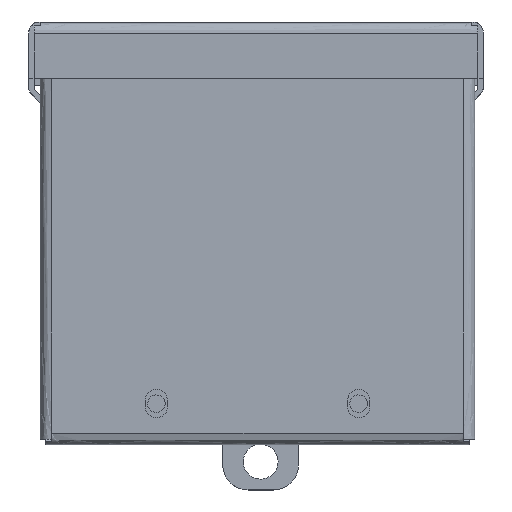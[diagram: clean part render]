
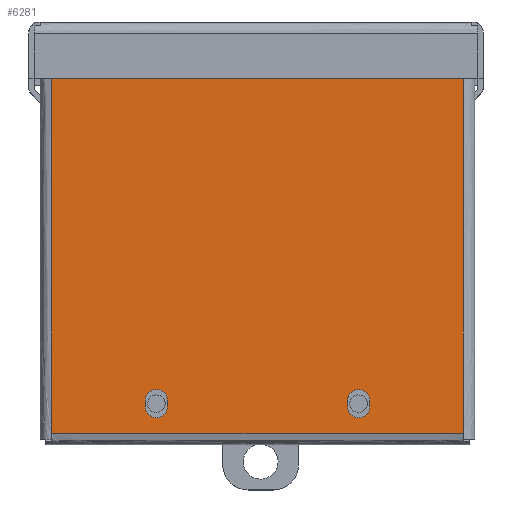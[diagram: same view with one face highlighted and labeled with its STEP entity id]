
A CAD part, top view. The second image highlights one B-rep face of the part: STEP entity #6281.
In plain terms, the highlighted free-form (B-spline) face has degree [1, 1] with [2, 2] control points.
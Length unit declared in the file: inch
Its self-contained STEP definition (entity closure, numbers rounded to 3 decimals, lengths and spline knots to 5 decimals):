
#5496=CARTESIAN_POINT('V71',(0.9855,-0.055,
   3.622));
#5497=VERTEX_POINT('V71',#5496);
#5505=CARTESIAN_POINT('V74',(1.2045,-0.055,
   3.622));
#5506=VERTEX_POINT('V74',#5505);
#5507=CARTESIAN_POINT('E88',(1.2045,-0.055,
   3.622));
#5508=CARTESIAN_POINT('E88',(1.2045,-0.055,
   3.5125));
#5509=CARTESIAN_POINT('E88',(1.095,-0.055,
   3.5125));
#5510=CARTESIAN_POINT('E88',(0.9855,-0.055,
   3.5125));
#5511=CARTESIAN_POINT('E88',(0.9855,-0.055,
   3.622));
#5519=(BOUNDED_CURVE()B_SPLINE_CURVE(2,(#5507,#5508,#5509,#5510,
   #5511),.CIRCULAR_ARC.,.F.,.U.)B_SPLINE_CURVE_WITH_KNOTS((3,2,3),
   (0.0,0.5,1.0),.UNSPECIFIED.)CURVE()
   GEOMETRIC_REPRESENTATION_ITEM()RATIONAL_B_SPLINE_CURVE((1.0,
   0.707,1.0,0.707,1.0))REPRESENTATION_ITEM(
   'E88'));
#5520=EDGE_CURVE('E88',#5506,#5497,#5519,.T.);
#5553=CARTESIAN_POINT('V73',(1.2045,-0.055,
   3.684));
#5554=VERTEX_POINT('V73',#5553);
#5555=CARTESIAN_POINT('E87',(1.2045,-0.055,
   3.684));
#5556=CARTESIAN_POINT('E87',(1.2045,-0.055,
   3.622));
#5557=QUASI_UNIFORM_CURVE('E87',1,(#5555,#5556),.POLYLINE_FORM.,.F.,
   .U.);
#5558=EDGE_CURVE('E87',#5554,#5506,#5557,.T.);
#5594=CARTESIAN_POINT('V72',(0.9855,-0.055,
   3.684));
#5595=VERTEX_POINT('V72',#5594);
#5596=CARTESIAN_POINT('E86',(0.9855,-0.055,
   3.684));
#5597=CARTESIAN_POINT('E86',(0.9855,-0.055,
   3.7935));
#5598=CARTESIAN_POINT('E86',(1.095,-0.055,
   3.7935));
#5599=CARTESIAN_POINT('E86',(1.2045,-0.055,
   3.7935));
#5600=CARTESIAN_POINT('E86',(1.2045,-0.055,
   3.684));
#5608=(BOUNDED_CURVE()B_SPLINE_CURVE(2,(#5596,#5597,#5598,#5599,
   #5600),.CIRCULAR_ARC.,.F.,.U.)B_SPLINE_CURVE_WITH_KNOTS((3,2,3),
   (0.0,0.5,1.0),.UNSPECIFIED.)CURVE()
   GEOMETRIC_REPRESENTATION_ITEM()RATIONAL_B_SPLINE_CURVE((1.0,
   0.707,1.0,0.707,1.0))REPRESENTATION_ITEM(
   'E86'));
#5609=EDGE_CURVE('E86',#5595,#5554,#5608,.T.);
#5642=CARTESIAN_POINT('E85',(0.9855,-0.055,
   3.622));
#5643=CARTESIAN_POINT('E85',(0.9855,-0.055,
   3.684));
#5644=QUASI_UNIFORM_CURVE('E85',1,(#5642,#5643),.POLYLINE_FORM.,.F.,
   .U.);
#5645=EDGE_CURVE('E85',#5497,#5595,#5644,.T.);
#5674=CARTESIAN_POINT('V67',(3.2045,-0.055,
   3.684));
#5675=VERTEX_POINT('V67',#5674);
#5683=CARTESIAN_POINT('V70',(2.9855,-0.055,
   3.684));
#5684=VERTEX_POINT('V70',#5683);
#5685=CARTESIAN_POINT('E84',(2.9855,-0.055,
   3.684));
#5686=CARTESIAN_POINT('E84',(2.9855,-0.055,
   3.7935));
#5687=CARTESIAN_POINT('E84',(3.095,-0.055,
   3.7935));
#5688=CARTESIAN_POINT('E84',(3.2045,-0.055,
   3.7935));
#5689=CARTESIAN_POINT('E84',(3.2045,-0.055,
   3.684));
#5697=(BOUNDED_CURVE()B_SPLINE_CURVE(2,(#5685,#5686,#5687,#5688,
   #5689),.CIRCULAR_ARC.,.F.,.U.)B_SPLINE_CURVE_WITH_KNOTS((3,2,3),
   (0.0,0.5,1.0),.UNSPECIFIED.)CURVE()
   GEOMETRIC_REPRESENTATION_ITEM()RATIONAL_B_SPLINE_CURVE((1.0,
   0.707,1.0,0.707,1.0))REPRESENTATION_ITEM(
   'E84'));
#5698=EDGE_CURVE('E84',#5684,#5675,#5697,.T.);
#5731=CARTESIAN_POINT('V69',(2.9855,-0.055,
   3.622));
#5732=VERTEX_POINT('V69',#5731);
#5733=CARTESIAN_POINT('E83',(2.9855,-0.055,
   3.622));
#5734=CARTESIAN_POINT('E83',(2.9855,-0.055,
   3.684));
#5735=QUASI_UNIFORM_CURVE('E83',1,(#5733,#5734),.POLYLINE_FORM.,.F.,
   .U.);
#5736=EDGE_CURVE('E83',#5732,#5684,#5735,.T.);
#5772=CARTESIAN_POINT('V68',(3.2045,-0.055,
   3.622));
#5773=VERTEX_POINT('V68',#5772);
#5774=CARTESIAN_POINT('E82',(3.2045,-0.055,
   3.622));
#5775=CARTESIAN_POINT('E82',(3.2045,-0.055,
   3.5125));
#5776=CARTESIAN_POINT('E82',(3.095,-0.055,
   3.5125));
#5777=CARTESIAN_POINT('E82',(2.9855,-0.055,
   3.5125));
#5778=CARTESIAN_POINT('E82',(2.9855,-0.055,
   3.622));
#5786=(BOUNDED_CURVE()B_SPLINE_CURVE(2,(#5774,#5775,#5776,#5777,
   #5778),.CIRCULAR_ARC.,.F.,.U.)B_SPLINE_CURVE_WITH_KNOTS((3,2,3),
   (0.0,0.5,1.0),.UNSPECIFIED.)CURVE()
   GEOMETRIC_REPRESENTATION_ITEM()RATIONAL_B_SPLINE_CURVE((1.0,
   0.707,1.0,0.707,1.0))REPRESENTATION_ITEM(
   'E82'));
#5787=EDGE_CURVE('E82',#5773,#5732,#5786,.T.);
#5820=CARTESIAN_POINT('E81',(3.2045,-0.055,
   3.684));
#5821=CARTESIAN_POINT('E81',(3.2045,-0.055,
   3.622));
#5822=QUASI_UNIFORM_CURVE('E81',1,(#5820,#5821),.POLYLINE_FORM.,.F.,
   .U.);
#5823=EDGE_CURVE('E81',#5675,#5773,#5822,.T.);
#6178=CARTESIAN_POINT('V44',(0.06,-0.055,
   3.945));
#6179=VERTEX_POINT('V44',#6178);
#6216=CARTESIAN_POINT('V45',(0.06,-0.055,
   0.0));
#6217=VERTEX_POINT('V45',#6216);
#6218=CARTESIAN_POINT('E52',(0.06,-0.055,
   0.0));
#6219=CARTESIAN_POINT('E52',(0.06,-0.055,
   3.945));
#6220=QUASI_UNIFORM_CURVE('E52',1,(#6218,#6219),.POLYLINE_FORM.,.F.,
   .U.);
#6221=EDGE_CURVE('E52',#6217,#6179,#6220,.T.);
#6242=CARTESIAN_POINT('F21',(4.13,-0.055,
   0.0));
#6243=CARTESIAN_POINT('F21',(4.13,-0.055,
   3.945));
#6244=CARTESIAN_POINT('F21',(0.06,-0.055,
   0.0));
#6245=CARTESIAN_POINT('F21',(0.06,-0.055,
   3.945));
#6246=B_SPLINE_SURFACE_WITH_KNOTS('F21',1,1,((#6242,#6244),(#6243,
   #6245)),.PLANE_SURF.,.F.,.F.,.U.,(2,2),(2,2),(
   0.0003,0.9997),(0.00029,
   0.99971),.UNSPECIFIED.);
#6247=CARTESIAN_POINT('V41',(4.13,-0.055,
   0.0));
#6248=VERTEX_POINT('V41',#6247);
#6249=CARTESIAN_POINT('E80',(0.06,-0.055,
   0.0));
#6250=CARTESIAN_POINT('E80',(4.13,-0.055,
   0.0));
#6251=QUASI_UNIFORM_CURVE('E80',1,(#6249,#6250),.POLYLINE_FORM.,.F.,
   .U.);
#6252=EDGE_CURVE('E80',#6217,#6248,#6251,.T.);
#6253=ORIENTED_EDGE('E80',*,*,#6252,.T.);
#6254=CARTESIAN_POINT('V40',(4.13,-0.055,
   3.945));
#6255=VERTEX_POINT('V40',#6254);
#6256=CARTESIAN_POINT('E48',(4.13,-0.055,
   3.945));
#6257=CARTESIAN_POINT('E48',(4.13,-0.055,
   0.0));
#6258=QUASI_UNIFORM_CURVE('E48',1,(#6256,#6257),.POLYLINE_FORM.,.F.,
   .U.);
#6259=EDGE_CURVE('E48',#6255,#6248,#6258,.T.);
#6260=ORIENTED_EDGE('E48',*,*,#6259,.F.);
#6261=CARTESIAN_POINT('E60',(0.06,-0.055,
   3.945));
#6262=CARTESIAN_POINT('E60',(4.13,-0.055,
   3.945));
#6263=QUASI_UNIFORM_CURVE('E60',1,(#6261,#6262),.POLYLINE_FORM.,.F.,
   .U.);
#6264=EDGE_CURVE('E60',#6179,#6255,#6263,.T.);
#6265=ORIENTED_EDGE('E60',*,*,#6264,.F.);
#6266=ORIENTED_EDGE('E52',*,*,#6221,.F.);
#6267=EDGE_LOOP('F21',(#6253,#6260,#6265,#6266));
#6268=FACE_OUTER_BOUND('F21',#6267,.T.);
#6269=ORIENTED_EDGE('E81',*,*,#5823,.T.);
#6270=ORIENTED_EDGE('E82',*,*,#5787,.T.);
#6271=ORIENTED_EDGE('E83',*,*,#5736,.T.);
#6272=ORIENTED_EDGE('E84',*,*,#5698,.T.);
#6273=EDGE_LOOP('F21',(#6269,#6270,#6271,#6272));
#6274=FACE_BOUND('F21',#6273,.T.);
#6275=ORIENTED_EDGE('E85',*,*,#5645,.T.);
#6276=ORIENTED_EDGE('E86',*,*,#5609,.T.);
#6277=ORIENTED_EDGE('E87',*,*,#5558,.T.);
#6278=ORIENTED_EDGE('E88',*,*,#5520,.T.);
#6279=EDGE_LOOP('F21',(#6275,#6276,#6277,#6278));
#6280=FACE_BOUND('F21',#6279,.T.);
#6281=ADVANCED_FACE('F21',(#6268,#6274,#6280),#6246,.T.);
